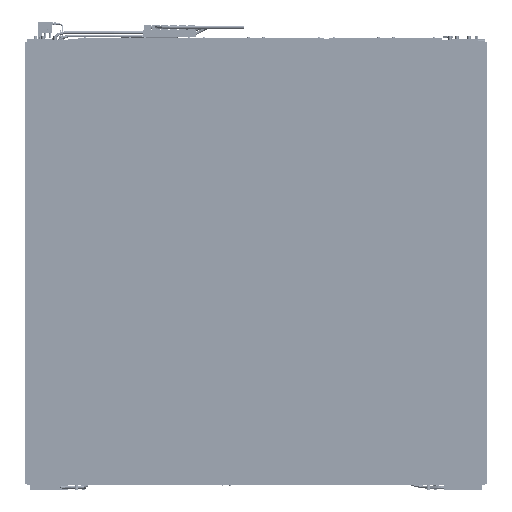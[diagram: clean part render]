
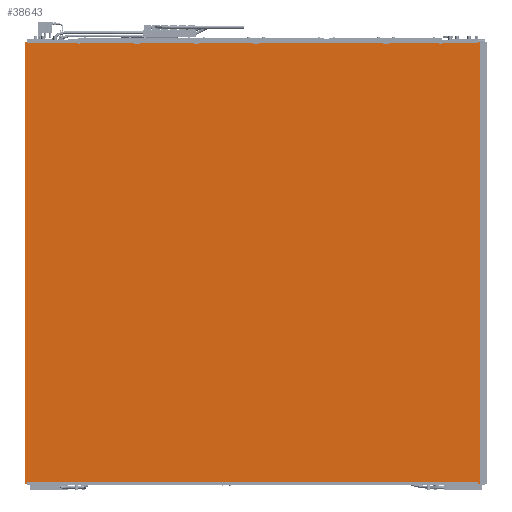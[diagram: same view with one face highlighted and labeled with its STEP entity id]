
A CAD part, front view. The second image highlights one B-rep face of the part: STEP entity #38643.
In plain terms, the highlighted planar face has unit normal (0, -1, 0).
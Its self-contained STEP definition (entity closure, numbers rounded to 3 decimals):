
#38643=ADVANCED_FACE('',(#53676),#45943,.F.);
#45943=PLANE('',#205321);
#53676=FACE_OUTER_BOUND('',#68165,.T.);
#68165=EDGE_LOOP('',(#109611,#109612,#109613,#109614));
#109611=ORIENTED_EDGE('',*,*,#155352,.T.);
#109612=ORIENTED_EDGE('',*,*,#155353,.T.);
#109613=ORIENTED_EDGE('',*,*,#155354,.T.);
#109614=ORIENTED_EDGE('',*,*,#155355,.T.);
#133018=VERTEX_POINT('',#321049);
#133019=VERTEX_POINT('',#321050);
#133020=VERTEX_POINT('',#321052);
#133021=VERTEX_POINT('',#321054);
#155352=EDGE_CURVE('',#133018,#133019,#172063,.T.);
#155353=EDGE_CURVE('',#133019,#133020,#172064,.T.);
#155354=EDGE_CURVE('',#133020,#133021,#172065,.T.);
#155355=EDGE_CURVE('',#133021,#133018,#172066,.T.);
#172063=LINE('',#321048,#186631);
#172064=LINE('',#321051,#186632);
#172065=LINE('',#321053,#186633);
#172066=LINE('',#321055,#186634);
#186631=VECTOR('',#248649,1.);
#186632=VECTOR('',#248650,1.);
#186633=VECTOR('',#248651,1.);
#186634=VECTOR('',#248652,1.);
#205321=AXIS2_PLACEMENT_3D('',#321056,#248653,#248654);
#248649=DIRECTION('',(1.,0.,0.));
#248650=DIRECTION('',(0.,0.,1.));
#248651=DIRECTION('',(-1.,0.,0.));
#248652=DIRECTION('',(0.,0.,-1.));
#248653=DIRECTION('',(0.,1.,0.));
#248654=DIRECTION('',(-1.,0.,0.));
#321048=CARTESIAN_POINT('',(-1388.7,-7364.2,4085.5));
#321049=CARTESIAN_POINT('',(-2673.7,-7364.2,4085.5));
#321050=CARTESIAN_POINT('',(-103.7,-7364.2,4085.5));
#321051=CARTESIAN_POINT('',(-103.7,-7364.2,5333.5));
#321052=CARTESIAN_POINT('',(-103.7,-7364.2,6581.5));
#321053=CARTESIAN_POINT('',(-1388.7,-7364.2,6581.5));
#321054=CARTESIAN_POINT('',(-2673.7,-7364.2,6581.5));
#321055=CARTESIAN_POINT('',(-2673.7,-7364.2,5333.5));
#321056=CARTESIAN_POINT('',(-103.7,-7364.2,4085.5));
